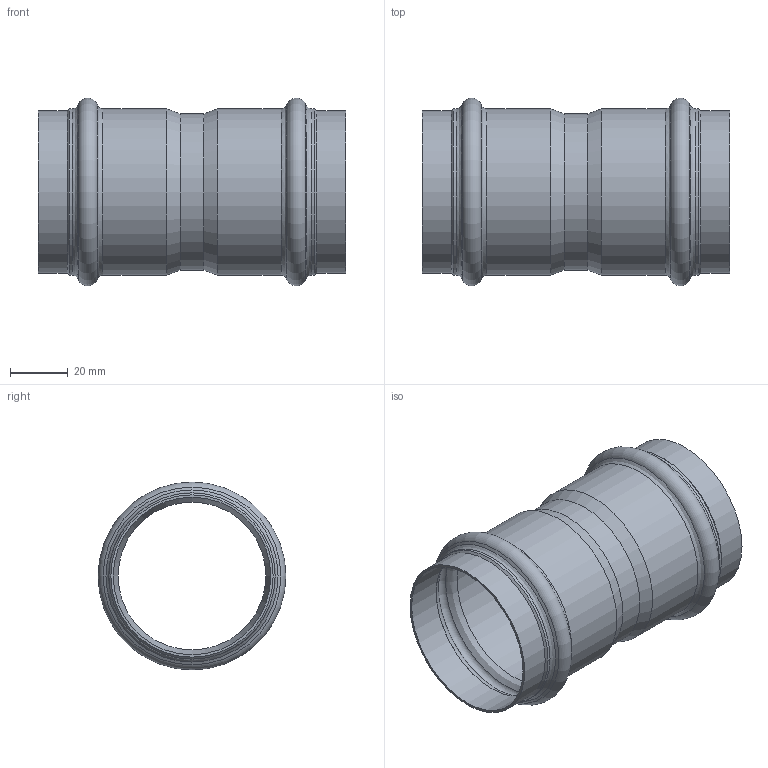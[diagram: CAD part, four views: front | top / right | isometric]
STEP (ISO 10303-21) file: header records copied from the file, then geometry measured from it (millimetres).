
FILE_DESCRIPTION((''),'2;1');
FILE_NAME('G:\Technics\CAD\Bauteile\054\6927054(1).stp','2008-03-06T13:17:10',('herberg'),(''),'Autodesk Inventor 2008','Autodesk Inventor 2008','');
FILE_SCHEMA(('AUTOMOTIVE_DESIGN { 1 0 10303 214 1 1 1 1 }'));
Length unit declared in the file: millimetre
Products named in the file (1): 6927054(1)
Bounding box: 106 x 64.8 x 64.8 mm (x, y, z)
Volume: 27419.4 mm3; surface area: 40293.2 mm2
Topology: 1 solids, 1 shells, 38 faces, 76 edges, 42 vertices
Faces by surface type: cylinder 12, cone 10, bspline 8, plane 4, torus 4
Full cylindrical faces by diameter (mm): 51 x1, 54 x1, 54.35 x4, 55.95 x2, 57.35 x4
Entity records: 1114 total; most frequent: CARTESIAN_POINT 467, DIRECTION 138, ORIENTED_EDGE 76, EDGE_LOOP 76, AXIS2_PLACEMENT_3D 69, VERTEX_POINT 38, CIRCLE 38, EDGE_CURVE 38
